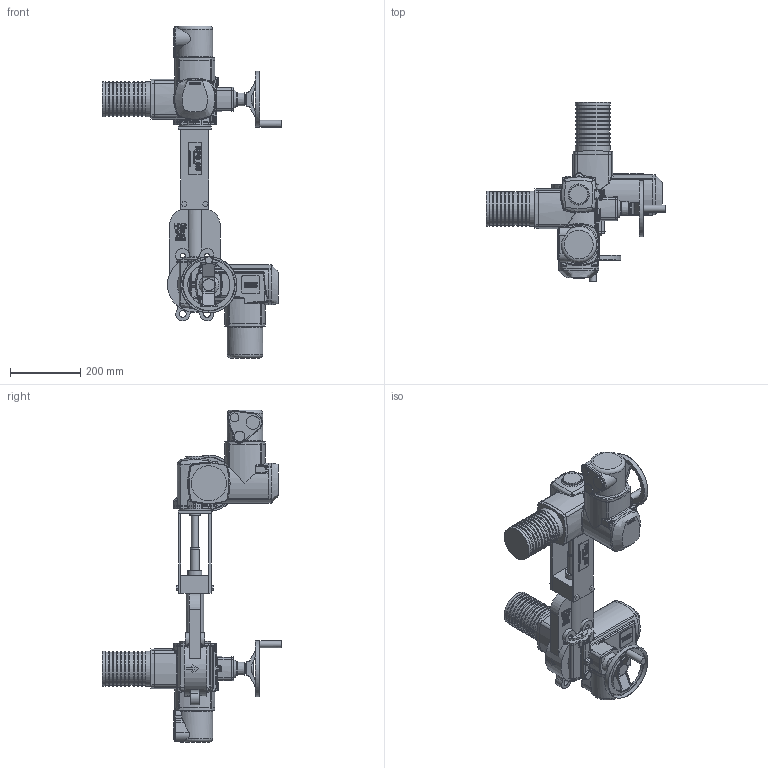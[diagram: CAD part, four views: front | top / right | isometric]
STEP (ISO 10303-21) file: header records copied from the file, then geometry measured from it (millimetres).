
FILE_DESCRIPTION( ( 'Unknown' ), '1' );
FILE_NAME( 'J:/Muud/ROOTSI BPS 3D vidinad/Nugasiibrid/Knife gate valve with electric actuator BPS/STEP formaat/BPS 2010100E knife gate valve DN100.stp', 'Unknown', ( 'Unknown' ), ( 'Unknown' ), 'PSStep 10.1', 'Unknown', ' ' );
FILE_SCHEMA( ( 'AUTOMOTIVE_DESIGN { 1 0 10303 214 1 1 1 1 }' ) );
Length unit declared in the file: millimetre
Products named in the file (3): Assem1; Knife gate valve for electric drive DN100 BPS; AUMA electric actuator sa07.1(sa07.5)-oa0
Bounding box: 511.9 x 511.9 x 947 mm (x, y, z)
Volume: 19519605 mm3; surface area: 1323528.8 mm2
Topology: 4 solids, 4 shells, 2792 faces, 6688 edges, 4180 vertices
Faces by surface type: extrusion 1044, plane 590, cylinder 536, bspline 330, cone 154, torus 92, sphere 46
Full cylindrical faces by diameter (mm): 4.917 x8, 6.647 x8, 13.835 x4, 19 x4, 20 x6, 24 x4, 25 x4, 25.5 x2, 30 x8, 34 x2, 38.3 x2, 40 x2, 51.5 x2, 55 x2, 90 x2, 95 x20, 100 x26, 120 x2, 156 x2, 160 x2
Entity records: 71969 total; most frequent: CARTESIAN_POINT 31396, ORIENTED_EDGE 6358, DIRECTION 4721, EDGE_CURVE 3179, VERTEX_POINT 2063, VECTOR 1903, EDGE_LOOP 1678, B_SPLINE_CURVE_WITH_KNOTS 1623
